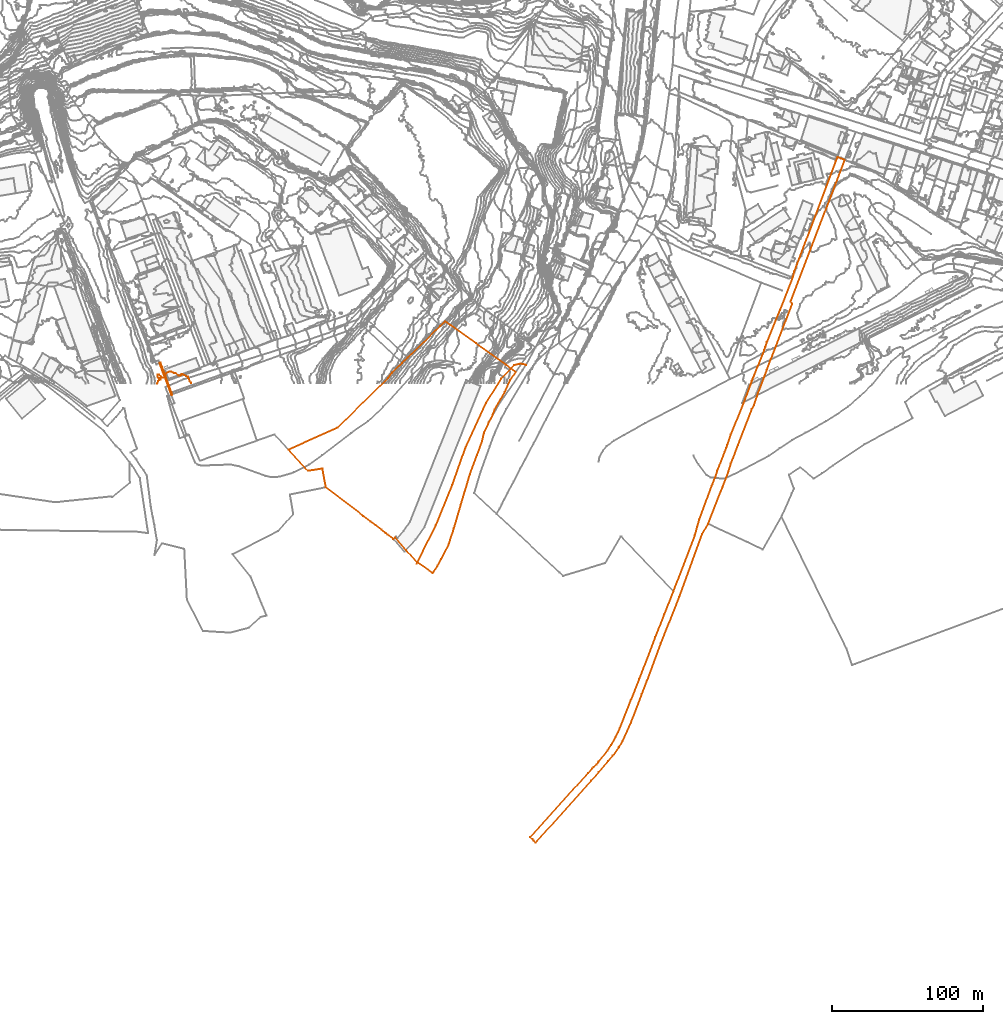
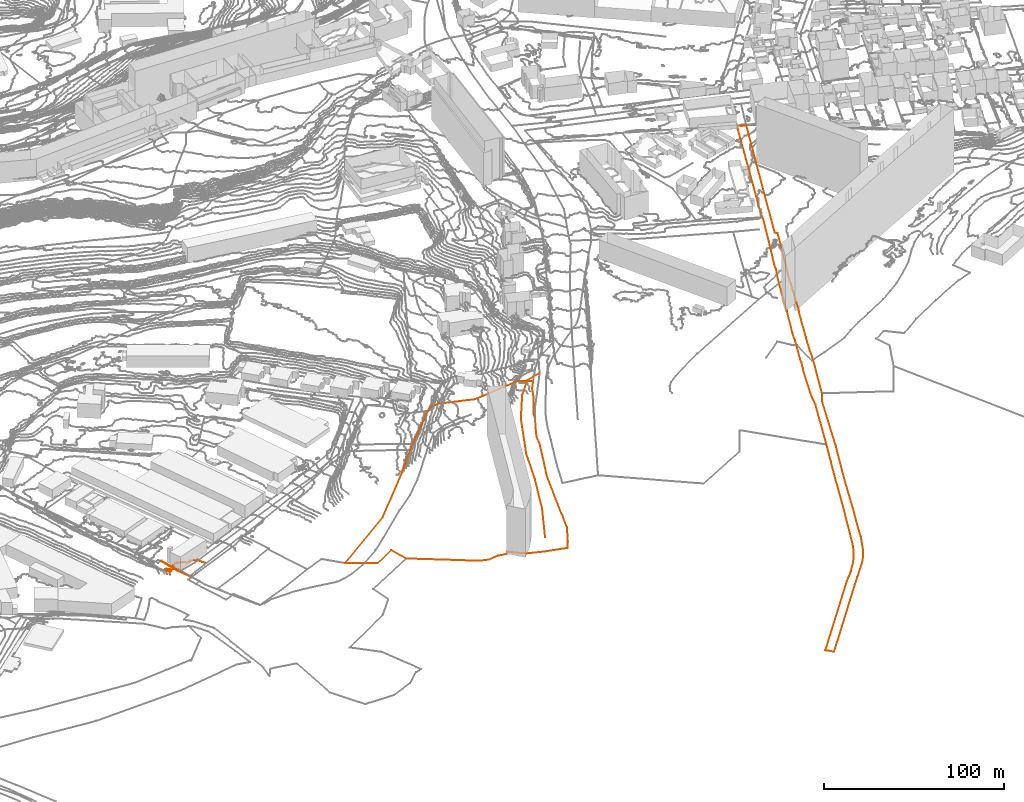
# Not in any storey, part 157 of 419: 6 proxies.
"""IFC2X3 model written with IfcOpenShell, lengths in metres."""

from ifc_helpers import new_model, entity, si_unit, frame, origin_with_axes, place, context, subcontext, project, element, save


model = new_model("IFC2X3")

# Units and contexts
model_context = context("Model", 3, precision=1e-05, world=origin_with_axes())
body_context = subcontext(model_context, "Body", "Model", "MODEL_VIEW")
ifc_project = project(units=[si_unit("AREAUNIT", "SQUARE_METRE"), si_unit("LENGTHUNIT", "METRE")], contexts=[model_context])

# Proxies
proxy_1_placement = place(None, frame((523.6920204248, -121.3023090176, 57.6), z_axis=(0.0, 0.0, 1.0), x_axis=(1.0, 0.0, 0.0)))
element("IfcBuildingElementProxy", 1, at=proxy_1_placement, Name="Route 8", ObjectType="NOTDEFINED", context=body_context, shape_type="GeometricCurveSet", body=[
    entity("IfcGeometricCurveSet", [entity("IfcPolyline", [entity("IfcCartesianPoint", [0.0, 0.0, 0.0]), entity("IfcCartesianPoint", [12.8, 25.6000000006, -0.2]), entity("IfcCartesianPoint", [23.7000000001, 52.4000000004, -0.5]), entity("IfcCartesianPoint", [32.5, 77.2999999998, -1.2]), entity("IfcCartesianPoint", [46.0, 106.6000000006, -0.1]), entity("IfcCartesianPoint", [56.2000000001, 122.9000000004, 2.4]), entity("IfcCartesianPoint", [64.8, 131.7999999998, 4.3]), entity("IfcCartesianPoint", [69.1, 132.7999999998, 4.6]), entity("IfcCartesianPoint", [72.6, 132.0, 6.0])])]),
])
proxy_2_placement = place(None, frame((599.1620204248, -301.9923090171, 64.1342014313), z_axis=(0.0, 0.0, 1.0), x_axis=(1.0, 0.0, 0.0)))
element("IfcBuildingElementProxy", 2, at=proxy_2_placement, Name="Cadastre 316", ObjectType="NOTDEFINED", context=body_context, shape_type="GeometricCurveSet", body=[
    entity("IfcGeometricCurveSet", [entity("IfcPolyline", [entity("IfcCartesianPoint", [203.46, 450.3799999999, 11.7837578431]), entity("IfcCartesianPoint", [205.85, 449.3499999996, 11.4365441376]), entity("IfcCartesianPoint", [208.22, 448.3999999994, 11.6665175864]), entity("IfcCartesianPoint", [172.34, 354.5800000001, 8.0927527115]), entity("IfcCartesianPoint", [173.5, 353.3399999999, 8.1849034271]), entity("IfcCartesianPoint", [162.6599999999, 325.0699999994, 6.6272697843]), entity("IfcCartesianPoint", [159.09, 316.04, 6.0441208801]), entity("IfcCartesianPoint", [156.5699999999, 309.1799999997, 6.1673823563]), entity("IfcCartesianPoint", [154.62, 303.8799999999, 6.2875002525]), entity("IfcCartesianPoint", [150.0399999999, 291.9199999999, 6.6309004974]), entity("IfcCartesianPoint", [148.12, 286.0499999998, 6.7319981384]), entity("IfcCartesianPoint", [146.72, 283.4199999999, 6.7599988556]), entity("IfcCartesianPoint", [137.48, 259.6200000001, 6.9917961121]), entity("IfcCartesianPoint", [132.8099999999, 247.1499999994, 7.280598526]), entity("IfcCartesianPoint", [130.97, 241.2599999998, 7.3395970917]), entity("IfcCartesianPoint", [127.2799999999, 231.8499999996, 7.4503002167]), entity("IfcCartesianPoint", [117.6399999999, 207.2799999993, 7.502097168]), entity("IfcCartesianPoint", [113.74, 200.5099999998, 7.6233972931]), entity("IfcCartesianPoint", [98.61, 158.9399999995, 7.7529959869]), entity("IfcCartesianPoint", [86.36, 127.9500000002, 7.7871970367]), entity("IfcCartesianPoint", [77.0, 102.7299999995, 7.8041985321]), entity("IfcCartesianPoint", [73.84, 94.6699999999, 7.4726998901]), entity("IfcCartesianPoint", [66.59, 75.5800000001, 7.5910009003]), entity("IfcCartesianPoint", [61.12, 63.5299999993, 7.659600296]), entity("IfcCartesianPoint", [58.73, 59.3899999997, 7.6317996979]), entity("IfcCartesianPoint", [58.5299999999, 59.0899999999, 7.6278003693]), entity("IfcCartesianPoint", [54.6399999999, 53.71, 7.6978992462]), entity("IfcCartesianPoint", [51.5199999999, 50.0899999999, 7.6958003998]), entity("IfcCartesianPoint", [45.37, 42.96, 7.6658016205]), entity("IfcCartesianPoint", [40.38, 37.1899999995, 7.5827999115]), entity("IfcCartesianPoint", [3.4399999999, -3.8399999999, 0.1451973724]), entity("IfcCartesianPoint", [2.08, -2.2800000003, 0.1772968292]), entity("IfcCartesianPoint", [1.5199999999, -1.5700000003, 0.1156964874]), entity("IfcCartesianPoint", [0.0, 0.0, 0.0]), entity("IfcCartesianPoint", [38.26, 42.3599999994, 7.5423994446]), entity("IfcCartesianPoint", [40.98, 45.2799999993, 7.5967979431]), entity("IfcCartesianPoint", [42.0599999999, 46.3999999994, 7.6057964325]), entity("IfcCartesianPoint", [43.75, 48.0, 7.6453972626]), entity("IfcCartesianPoint", [44.7999999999, 49.2000000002, 7.6658016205]), entity("IfcCartesianPoint", [45.2799999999, 49.7599999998, 7.6658016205]), entity("IfcCartesianPoint", [51.0699999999, 57.2999999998, 7.6921996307]), entity("IfcCartesianPoint", [53.35, 60.6600000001, 7.6958003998]), entity("IfcCartesianPoint", [56.49, 66.0999999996, 7.6839983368]), entity("IfcCartesianPoint", [59.1499999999, 71.7799999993, 7.640198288]), entity("IfcCartesianPoint", [66.4299999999, 90.1499999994, 7.5958019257]), entity("IfcCartesianPoint", [72.1599999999, 104.4500000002, 7.5158000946]), entity("IfcCartesianPoint", [82.7999999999, 132.3499999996, 7.8231970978]), entity("IfcCartesianPoint", [88.6799999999, 147.2599999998, 7.7532974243]), entity("IfcCartesianPoint", [91.25, 153.7400000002, 7.7575983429]), entity("IfcCartesianPoint", [94.7799999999, 162.71, 7.7723014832]), entity("IfcCartesianPoint", [108.9399999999, 199.5599999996, 7.7255991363]), entity("IfcCartesianPoint", [110.5499999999, 205.3700000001, 7.7173992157]), entity("IfcCartesianPoint", [110.76, 206.2599999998, 7.7026992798]), entity("IfcCartesianPoint", [111.8899999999, 210.0599999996, 7.6649979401]), entity("IfcCartesianPoint", [120.0299999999, 232.5199999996, 7.5057994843]), entity("IfcCartesianPoint", [120.6, 233.6399999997, 7.4807002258]), entity("IfcCartesianPoint", [122.6499999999, 238.7999999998, 7.4290010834]), entity("IfcCartesianPoint", [123.86, 242.5699999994, 7.4929995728]), entity("IfcCartesianPoint", [128.6699999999, 254.9199999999, 7.4237975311]), entity("IfcCartesianPoint", [129.6899999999, 257.5199999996, 7.3779955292]), entity("IfcCartesianPoint", [129.74, 257.6499999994, 7.3764955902]), entity("IfcCartesianPoint", [130.3899999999, 259.3599999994, 7.3569963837]), entity("IfcCartesianPoint", [130.47, 259.5999999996, 7.3545964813]), entity("IfcCartesianPoint", [132.8099999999, 266.4699999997, 7.280598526]), entity("IfcCartesianPoint", [141.2799999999, 287.3399999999, 6.9437957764]), entity("IfcCartesianPoint", [145.85, 299.6099999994, 6.7716013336]), entity("IfcCartesianPoint", [146.6599999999, 301.8199999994, 6.7740993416]), entity("IfcCartesianPoint", [146.7899999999, 302.1499999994, 6.7813997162]), entity("IfcCartesianPoint", [147.1899999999, 303.21, 6.7691172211]), entity("IfcCartesianPoint", [148.1599999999, 305.6600000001, 6.552726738]), entity("IfcCartesianPoint", [150.59, 311.7000000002, 6.338396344]), entity("IfcCartesianPoint", [154.0499999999, 320.29, 6.3290194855]), entity("IfcCartesianPoint", [154.98, 322.3199999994, 7.1762538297]), entity("IfcCartesianPoint", [155.62, 324.29, 7.630318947]), entity("IfcCartesianPoint", [156.62, 327.5999999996, 7.6715986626]), entity("IfcCartesianPoint", [165.4199999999, 349.1200000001, 7.9450237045]), entity("IfcCartesianPoint", [173.8099999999, 370.54, 8.3519991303]), entity("IfcCartesianPoint", [174.8099999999, 374.3799999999, 8.6812752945]), entity("IfcCartesianPoint", [202.2799999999, 447.3099999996, 11.2447577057]), entity("IfcCartesianPoint", [203.46, 450.3799999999, 11.7837578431])])]),
])
proxy_3_placement = place(None, frame((438.9720204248, -45.4423090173, 23.8251998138), z_axis=(0.0, 0.0, 1.0), x_axis=(1.0, 0.0, 0.0)))
element("IfcBuildingElementProxy", 3, at=proxy_3_placement, Name="Cadastre 339", ObjectType="NOTDEFINED", context=body_context, shape_type="GeometricCurveSet", body=[
    entity("IfcGeometricCurveSet", [entity("IfcPolyline", [entity("IfcCartesianPoint", [69.42, -59.2199999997, 17.90280159]), entity("IfcCartesianPoint", [65.71, -56.3600000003, 16.1725008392]), entity("IfcCartesianPoint", [64.27, -55.2599999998, 15.2583004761]), entity("IfcCartesianPoint", [61.51, -53.1500000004, 13.0700013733]), entity("IfcCartesianPoint", [57.54, -50.1100000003, 11.8900017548]), entity("IfcCartesianPoint", [54.4, -47.71, 11.4971999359]), entity("IfcCartesianPoint", [49.54, -43.9800000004, 11.3447983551]), entity("IfcCartesianPoint", [24.72, -24.9500000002, 9.6107998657]), entity("IfcCartesianPoint", [22.47, -12.4900000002, 8.5088005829]), entity("IfcCartesianPoint", [12.9400000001, -14.0599999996, 3.918400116]), entity("IfcCartesianPoint", [0.0, 0.0, 0.0]), entity("IfcCartesianPoint", [32.4400000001, 14.5700000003, 10.6030001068]), entity("IfcCartesianPoint", [65.97, 47.3799999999, 14.8078407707]), entity("IfcCartesianPoint", [68.64, 51.1399999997, 14.3228396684]), entity("IfcCartesianPoint", [75.1, 57.3499999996, 15.8767445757]), entity("IfcCartesianPoint", [78.76, 60.8799999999, 16.4617509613]), entity("IfcCartesianPoint", [100.5600000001, 81.8700000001, 18.5202290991]), entity("IfcCartesianPoint", [103.62, 84.8700000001, 18.0883005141]), entity("IfcCartesianPoint", [107.46, 82.4000000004, 20.5577127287]), entity("IfcCartesianPoint", [124.1, 70.4000000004, 25.1348482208]), entity("IfcCartesianPoint", [143.67, 56.3499999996, 39.2470038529]), entity("IfcCartesianPoint", [150.49, 51.3899999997, 39.6036449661]), entity("IfcCartesianPoint", [146.76, 46.04, 39.4564406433]), entity("IfcCartesianPoint", [143.23, 38.1699999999, 38.8495986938]), entity("IfcCartesianPoint", [136.48, 26.4900000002, 37.1977990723]), entity("IfcCartesianPoint", [135.25, 22.8300000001, 36.962399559]), entity("IfcCartesianPoint", [132.67, 17.8300000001, 35.3048003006]), entity("IfcCartesianPoint", [129.55, 11.3899999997, 33.6679009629]), entity("IfcCartesianPoint", [128.24, 5.6900000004, 32.8205990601]), entity("IfcCartesianPoint", [124.78, -3.7800000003, 30.7491997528]), entity("IfcCartesianPoint", [120.13, -16.1200000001, 27.4593989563]), entity("IfcCartesianPoint", [114.04, -36.8700000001, 25.895599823]), entity("IfcCartesianPoint", [109.5, -52.1799999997, 25.4532006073]), entity("IfcCartesianPoint", [106.05, -63.0499999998, 25.5034000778]), entity("IfcCartesianPoint", [101.22, -72.3700000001, 25.9748001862]), entity("IfcCartesianPoint", [98.73, -76.8099999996, 26.4782014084]), entity("IfcCartesianPoint", [95.58, -81.8200000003, 26.5092003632]), entity("IfcCartesianPoint", [85.42, -74.8300000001, 23.4447991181]), entity("IfcCartesianPoint", [77.84, -66.4800000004, 19.6144017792]), entity("IfcCartesianPoint", [70.55, -58.1500000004, 18.3209986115]), entity("IfcCartesianPoint", [69.42, -59.2199999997, 17.90280159])])]),
])
proxy_4_placement = place(None, frame((357.7820204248, 0.4976909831, 19.2768001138), z_axis=(0.0, 0.0, 1.0), x_axis=(1.0, 0.0, 0.0)))
element("IfcBuildingElementProxy", 4, at=proxy_4_placement, Name="Cadastre 369", ObjectType="NOTDEFINED", context=body_context, shape_type="GeometricCurveSet", body=[
    entity("IfcGeometricCurveSet", [entity("IfcPolyline", [entity("IfcCartesianPoint", [0.59, 0.3399999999, 0.0369601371]), entity("IfcCartesianPoint", [3.72, -8.0500000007, 0.097799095]), entity("IfcCartesianPoint", [4.21, -9.3500000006, 0.1431991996]), entity("IfcCartesianPoint", [3.62, -9.7000000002, 0.0917991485]), entity("IfcCartesianPoint", [0.0, 0.0, 0.0]), entity("IfcCartesianPoint", [0.59, 0.3399999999, 0.0369601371])])]),
])
proxy_5_placement = place(None, frame((353.5620204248, 11.8876909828, 20.3523062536), z_axis=(0.0, 0.0, 1.0), x_axis=(1.0, 0.0, 0.0)))
element("IfcBuildingElementProxy", 5, at=proxy_5_placement, Name="Cadastre 370", ObjectType="NOTDEFINED", context=body_context, shape_type="GeometricCurveSet", body=[
    entity("IfcGeometricCurveSet", [entity("IfcPolyline", [entity("IfcCartesianPoint", [4.8100000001, -11.0499999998, -1.0385460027]), entity("IfcCartesianPoint", [4.2200000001, -11.3899999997, -1.0755061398]), entity("IfcCartesianPoint", [0.0, 0.0, 0.0]), entity("IfcCartesianPoint", [0.6800000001, 0.1399999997, -0.098566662]), entity("IfcCartesianPoint", [4.8100000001, -11.0499999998, -1.0385460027])])]),
])
proxy_6_placement = place(None, frame((352.0711865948, -1.6023090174, 20.0), z_axis=(0.0, 0.0, 1.0), x_axis=(1.0, 0.0, 0.0)))
element("IfcBuildingElementProxy", 6, at=proxy_6_placement, Name="Contour 20.0 m", ObjectType="NOTDEFINED", context=body_context, shape_type="GeometricCurveSet", body=[
    entity("IfcGeometricCurveSet", [entity("IfcPolyline", [entity("IfcCartesianPoint", [22.2430607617, 0.0, 0.0]), entity("IfcCartesianPoint", [22.2430607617, 0.5, 0.0]), entity("IfcCartesianPoint", [21.42083383, 1.5, 0.0]), entity("IfcCartesianPoint", [21.02083383, 2.9999500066, 0.0]), entity("IfcCartesianPoint", [20.5207838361, 3.5, 0.0]), entity("IfcCartesianPoint", [20.5207838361, 4.5, 0.0]), entity("IfcCartesianPoint", [19.02083383, 4.7000000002, 0.0]), entity("IfcCartesianPoint", [18.0208138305, 5.5, 0.0]), entity("IfcCartesianPoint", [16.02083383, 6.25, 0.0]), entity("IfcCartesianPoint", [15.720828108, 5.5, 0.0]), entity("IfcCartesianPoint", [15.02083383, 5.1499995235, 0.0]), entity("IfcCartesianPoint", [14.02083383, 5.1499995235, 0.0]), entity("IfcCartesianPoint", [12.02083383, 6.8333386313, 0.0]), entity("IfcCartesianPoint", [11.02083383, 6.9444538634, 0.0]), entity("IfcCartesianPoint", [9.02083383, 7.7857181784, 0.0]), entity("IfcCartesianPoint", [8.02083383, 7.8333290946, 0.0]), entity("IfcCartesianPoint", [6.02083383, 6.9999928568, 0.0]), entity("IfcCartesianPoint", [5.02083383, 4.5769242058, 0.0]), entity("IfcCartesianPoint", [4.02083383, 3.9000015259, 0.0]), entity("IfcCartesianPoint", [3.02083383, 3.8000057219, 0.0]), entity("IfcCartesianPoint", [2.6319472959, 4.5, 0.0]), entity("IfcCartesianPoint", [1.02083383, 5.7000025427, 0.0]), entity("IfcCartesianPoint", [0.02083383, 5.9000076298, 0.0]), entity("IfcCartesianPoint", [0.0208397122, 4.5, 0.0]), entity("IfcCartesianPoint", [0.82083383, 3.5, 0.0]), entity("IfcCartesianPoint", [2.27083383, 3.5, 0.0]), entity("IfcCartesianPoint", [2.1208357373, 2.5, 0.0]), entity("IfcCartesianPoint", [1.02083383, 2.2073162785, 0.0]), entity("IfcCartesianPoint", [0.4631402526, 1.5, 0.0]), entity("IfcCartesianPoint", [0.0, 0.0, 0.0])])]),
])

save(model, "model.ifc")
